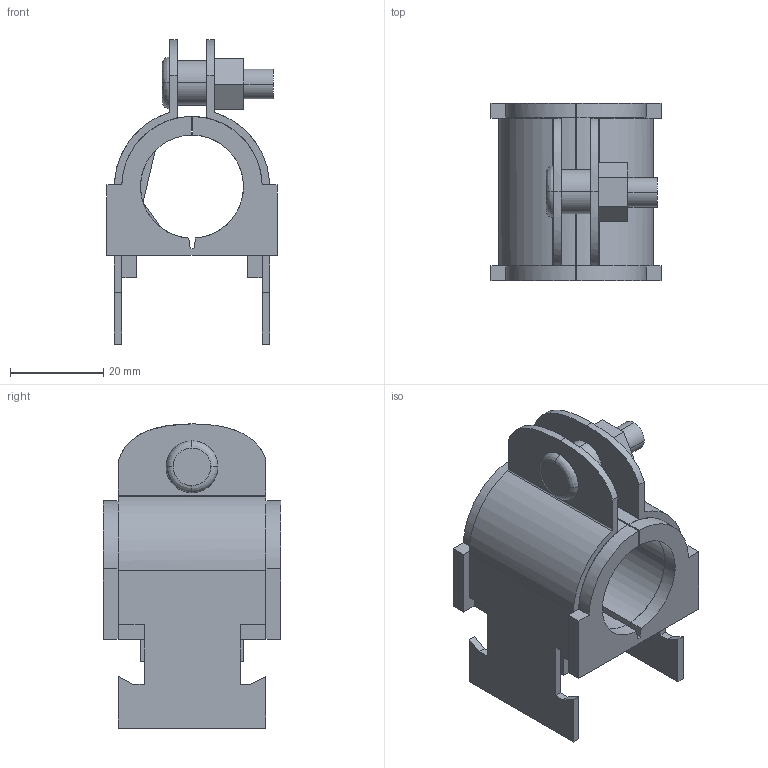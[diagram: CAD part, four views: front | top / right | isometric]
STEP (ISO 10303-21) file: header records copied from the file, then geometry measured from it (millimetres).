
FILE_DESCRIPTION(('TurboCAD Mac Pro'),'Build 980');
FILE_NAME('014T018.stp',' ',(''),(''),'ACIS Interop','IMSI','TurboCAD Mac Pro BY IMSI, INCORPORATED');
FILE_SCHEMA(('automotive_design'));
Length unit declared in the file: inch
Products named in the file (4): 1; 2; 3; 4
Bounding box: 36.47 x 38.1 x 65.27 mm (x, y, z)
Volume: 24930 mm3; surface area: 18551.2 mm2
Topology: 4 solids, 4 shells, 154 faces, 400 edges, 258 vertices
Faces by surface type: plane 108, bspline 46
Entity records: 7279 total; most frequent: CARTESIAN_POINT 1788, ORIENTED_EDGE 800, DIRECTION 518, EDGE_CURVE 400, STYLED_ITEM 310, PRESENTATION_STYLE_ASSIGNMENT 310, COLOUR_RGB 310, LINE 286
